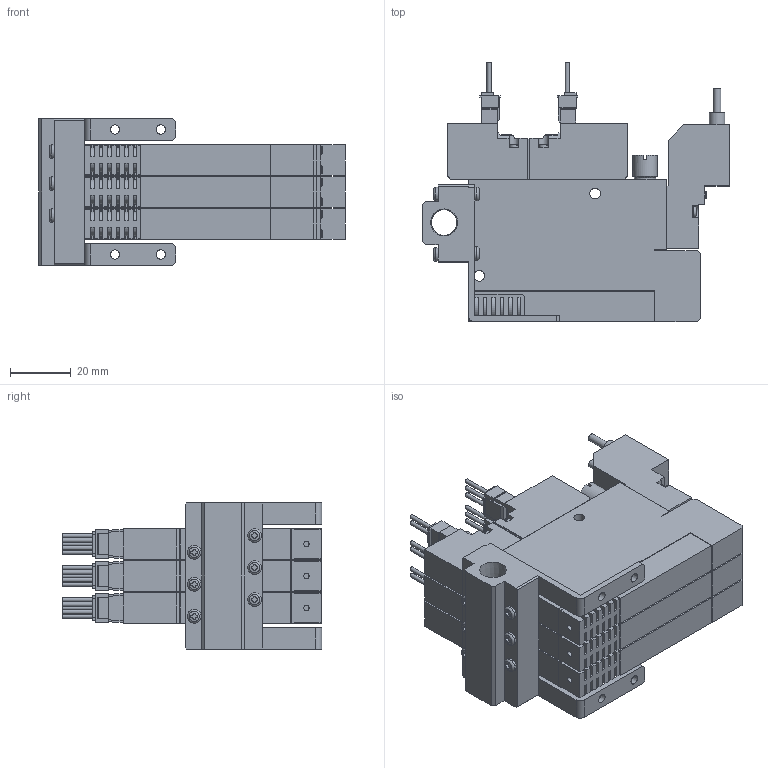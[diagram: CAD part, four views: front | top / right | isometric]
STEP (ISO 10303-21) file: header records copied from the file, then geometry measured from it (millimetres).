
FILE_DESCRIPTION(('STEP AP203'),'1');
FILE_NAME('5WS303_3D.stp','2024-09-04T09:43:13',(' '),(' '),'Spatial InterOp 3D',' ',' ');
FILE_SCHEMA(('CONFIG_CONTROL_DESIGN'));
Length unit declared in the file: millimetre
Products named in the file (5): BSC1M※※V8※5WS303; Solenoid valve W; Pressure Sensor V8; Unit-S; BaseMS30R
Assembly tree (10 placements, depth 2):
  BSC1M※※V8※5WS303
    Solenoid valve W  x3
    Pressure Sensor V8  x3
    Unit-S  x3
    BaseMS30R
Bounding box: 100.5 x 85.05 x 48 mm (x, y, z)
Volume: 155140.6 mm3; surface area: 64398.5 mm2
Topology: 10 solids, 10 shells, 1529 faces, 4170 edges, 2764 vertices
Faces by surface type: plane 1126, cylinder 342, cone 23, torus 22, sphere 16
Full cylindrical faces by diameter (mm): 1.4 x15, 1.8 x3, 2.5 x15, 3 x16, 3.5 x18, 4 x3, 4.134 x6, 4.5 x10, 5 x3, 5.5 x3, 7 x3, 7.7 x3, 8 x3, 8.422 x1
Entity records: 20263 total; most frequent: CARTESIAN_POINT 4390, ORIENTED_EDGE 3188, DIRECTION 3133, EDGE_CURVE 1594, LINE 1149, VECTOR 1149, VERTEX_POINT 1101, AXIS2_PLACEMENT_3D 992
